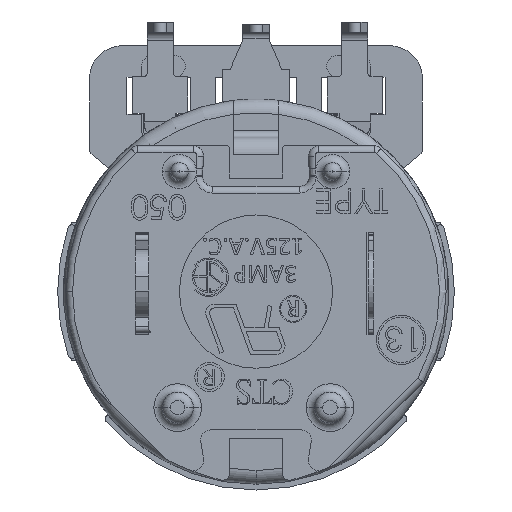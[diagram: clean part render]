
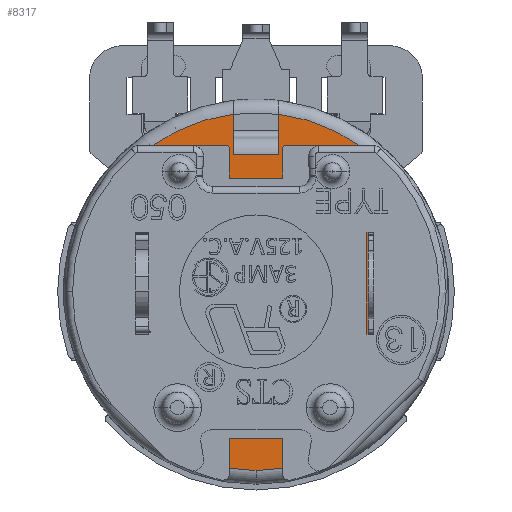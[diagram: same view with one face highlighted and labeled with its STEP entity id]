
A CAD part, front view. The second image highlights one B-rep face of the part: STEP entity #8317.
In plain terms, the highlighted planar face has unit normal (0, -1, 0).
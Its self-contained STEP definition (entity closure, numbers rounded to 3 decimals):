
#42 = EDGE_CURVE ( 'NONE', #24404, #17270, #2035, .T. ) ;
#199 = CARTESIAN_POINT ( 'NONE',  ( 0., 0., 0. ) ) ;
#2035 = CIRCLE ( 'NONE', #12058, 10.973 ) ;
#2854 = DIRECTION ( 'NONE',  ( 0., 0., -1. ) ) ;
#3930 = EDGE_CURVE ( 'NONE', #41049, #52295, #39393, .T. ) ;
#4819 = VECTOR ( 'NONE', #44251, 1000. ) ;
#8153 = ORIENTED_EDGE ( 'NONE', *, *, #51751, .F. ) ;
#8317 = ADVANCED_FACE ( 'NONE', ( #46781 ), #55318, .T. ) ;
#8761 = DIRECTION ( 'NONE',  ( 0., 0., -1. ) ) ;
#9218 = DIRECTION ( 'NONE',  ( 0., 0., 1. ) ) ;
#9718 = CARTESIAN_POINT ( 'NONE',  ( -1.397, 0., 12.522 ) ) ;
#11700 = VERTEX_POINT ( 'NONE', #35474 ) ;
#12058 = AXIS2_PLACEMENT_3D ( 'NONE', #199, #31009, #8761 ) ;
#16236 = CARTESIAN_POINT ( 'NONE',  ( -5.207, 0., 0. ) ) ;
#17145 = DIRECTION ( 'NONE',  ( -1., 0., 0. ) ) ;
#17270 = VERTEX_POINT ( 'NONE', #24065 ) ;
#18267 = LINE ( 'NONE', #9718, #4819 ) ;
#19108 = ORIENTED_EDGE ( 'NONE', *, *, #41899, .T. ) ;
#19746 = AXIS2_PLACEMENT_3D ( 'NONE', #16236, #32534, #2854 ) ;
#20073 = ORIENTED_EDGE ( 'NONE', *, *, #42, .T. ) ;
#22032 = CARTESIAN_POINT ( 'NONE',  ( 0., 0., 0. ) ) ;
#24065 = CARTESIAN_POINT ( 'NONE',  ( 0., 0., -10.973 ) ) ;
#24404 = VERTEX_POINT ( 'NONE', #34332 ) ;
#27436 = DIRECTION ( 'NONE',  ( 0., -1., 0. ) ) ;
#29710 = CARTESIAN_POINT ( 'NONE',  ( -1.397, 0., 8.382 ) ) ;
#31009 = DIRECTION ( 'NONE',  ( 0., -1., 0. ) ) ;
#32307 = EDGE_CURVE ( 'NONE', #24404, #52295, #18267, .T. ) ;
#32534 = DIRECTION ( 'NONE',  ( 0., -1., 0. ) ) ;
#33986 = CARTESIAN_POINT ( 'NONE',  ( 1.397, 0., 8.382 ) ) ;
#34332 = CARTESIAN_POINT ( 'NONE',  ( -1.397, 0., 10.884 ) ) ;
#35474 = CARTESIAN_POINT ( 'NONE',  ( 1.397, 0., 10.884 ) ) ;
#35674 = CARTESIAN_POINT ( 'NONE',  ( -1.397, 0., 8.382 ) ) ;
#37038 = CIRCLE ( 'NONE', #47059, 10.973 ) ;
#38066 = EDGE_LOOP ( 'NONE', ( #8153, #40907, #47404, #20073, #19108 ) ) ;
#39169 = VECTOR ( 'NONE', #9218, 1000. ) ;
#39393 = LINE ( 'NONE', #29710, #50322 ) ;
#40309 = DIRECTION ( 'NONE',  ( 0., 0., -1. ) ) ;
#40907 = ORIENTED_EDGE ( 'NONE', *, *, #3930, .T. ) ;
#41049 = VERTEX_POINT ( 'NONE', #33986 ) ;
#41899 = EDGE_CURVE ( 'NONE', #17270, #11700, #37038, .T. ) ;
#44251 = DIRECTION ( 'NONE',  ( 0., 0., -1. ) ) ;
#46781 = FACE_OUTER_BOUND ( 'NONE', #38066, .T. ) ;
#47059 = AXIS2_PLACEMENT_3D ( 'NONE', #22032, #27436, #40309 ) ;
#47404 = ORIENTED_EDGE ( 'NONE', *, *, #32307, .F. ) ;
#47733 = LINE ( 'NONE', #56010, #39169 ) ;
#50322 = VECTOR ( 'NONE', #17145, 1000. ) ;
#51751 = EDGE_CURVE ( 'NONE', #41049, #11700, #47733, .T. ) ;
#52295 = VERTEX_POINT ( 'NONE', #35674 ) ;
#55318 = PLANE ( 'NONE',  #19746 ) ;
#56010 = CARTESIAN_POINT ( 'NONE',  ( 1.397, 0., 12.522 ) ) ;
